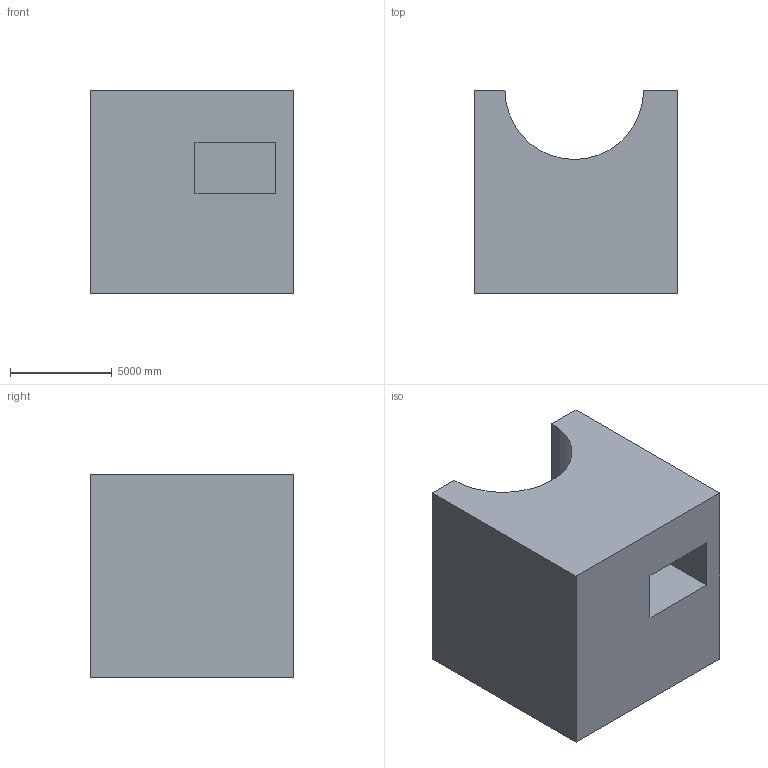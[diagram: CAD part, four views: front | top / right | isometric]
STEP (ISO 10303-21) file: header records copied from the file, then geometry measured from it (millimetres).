
FILE_DESCRIPTION (( 'STEP AP203' ), '1' );
FILE_NAME ('1068.STEP', '2022-08-18T12:38:05', ( 'user' ), ( '' ), 'SwSTEP 2.0', 'SolidWorks 2021', '' );
FILE_SCHEMA (( 'CONFIG_CONTROL_DESIGN' ));
Length unit declared in the file: centimetre
Products named in the file (1): 1068
Bounding box: 10000 x 10000 x 10000 mm (x, y, z)
Volume: 783126578369.4 mm3; surface area: 646924416.4 mm2
Topology: 1 solids, 1 shells, 13 faces, 30 edges, 20 vertices
Faces by surface type: plane 12, cylinder 1
Entity records: 443 total; most frequent: CARTESIAN_POINT 64, DIRECTION 60, ORIENTED_EDGE 60, EDGE_CURVE 30, VECTOR 28, LINE 28, VERTEX_POINT 20, AXIS2_PLACEMENT_3D 16
